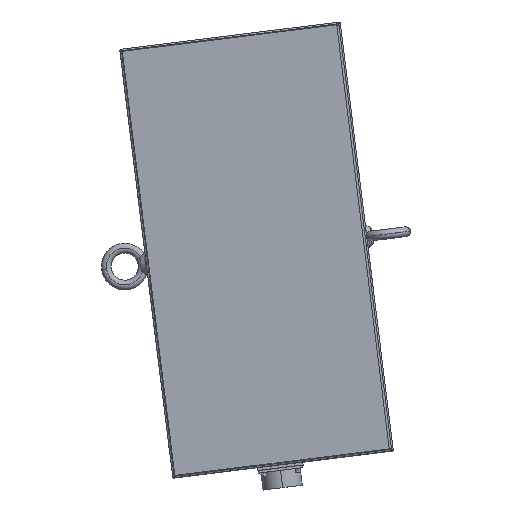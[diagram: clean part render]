
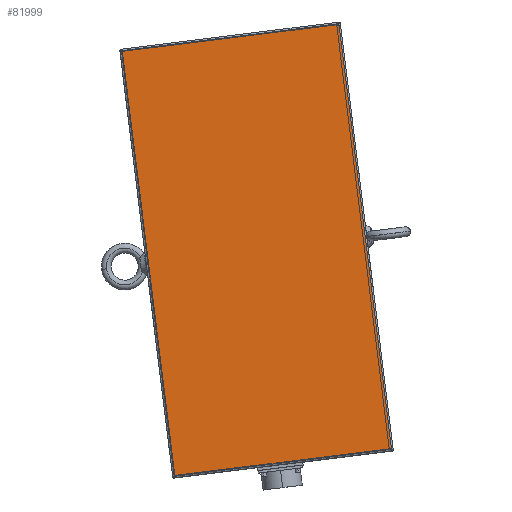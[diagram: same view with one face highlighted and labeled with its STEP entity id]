
A CAD part, top view. The second image highlights one B-rep face of the part: STEP entity #81999.
In plain terms, the highlighted planar face has unit normal (0, 0.001, 1).
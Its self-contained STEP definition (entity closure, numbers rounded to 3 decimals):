
#81960=CARTESIAN_POINT('',(151.804,-127.284,34.699));
#81961=DIRECTION('',(0.992,0.123,0.));
#81962=DIRECTION('',(0.,0.,1.));
#81963=AXIS2_PLACEMENT_3D('',#81960,#81962,#81961);
#81964=PLANE('',#81963);
#81965=CARTESIAN_POINT('',(-156.037,112.687,34.579));
#81966=VERTEX_POINT('',#81965);
#81967=CARTESIAN_POINT('',(-88.167,-435.125,34.853));
#81968=VERTEX_POINT('',#81967);
#81969=CARTESIAN_POINT('',(-156.037,112.687,34.579));
#81970=DIRECTION('',(0.123,-0.992,0.));
#81971=VECTOR('',#81970,552.);
#81972=LINE('',#81969,#81971);
#81973=EDGE_CURVE('',#81966,#81968,#81972,.T.);
#81974=ORIENTED_EDGE('E9149',*,*,#81973,.T.);
#81975=CARTESIAN_POINT('',(191.693,-400.452,34.836));
#81976=VERTEX_POINT('',#81975);
#81977=CARTESIAN_POINT('',(-88.167,-435.125,34.853));
#81978=DIRECTION('',(0.992,0.123,0.));
#81979=VECTOR('',#81978,282.);
#81980=LINE('',#81977,#81979);
#81981=EDGE_CURVE('',#81968,#81976,#81980,.T.);
#81982=ORIENTED_EDGE('E9150',*,*,#81981,.T.);
#81983=CARTESIAN_POINT('',(123.823,147.36,34.562));
#81984=VERTEX_POINT('',#81983);
#81985=CARTESIAN_POINT('',(191.693,-400.452,34.836));
#81986=DIRECTION('',(-0.123,0.992,0.));
#81987=VECTOR('',#81986,552.);
#81988=LINE('',#81985,#81987);
#81989=EDGE_CURVE('',#81976,#81984,#81988,.T.);
#81990=ORIENTED_EDGE('E9151',*,*,#81989,.T.);
#81991=CARTESIAN_POINT('',(123.823,147.36,34.562));
#81992=DIRECTION('',(-0.992,-0.123,0.));
#81993=VECTOR('',#81992,282.);
#81994=LINE('',#81991,#81993);
#81995=EDGE_CURVE('',#81984,#81966,#81994,.T.);
#81996=ORIENTED_EDGE('E9152',*,*,#81995,.T.);
#81997=EDGE_LOOP('',(#81974,#81982,#81990,#81996));
#81998=FACE_OUTER_BOUND('',#81997,.T.);
#81999=ADVANCED_FACE('F3552',(#81998),#81964,.T.);
